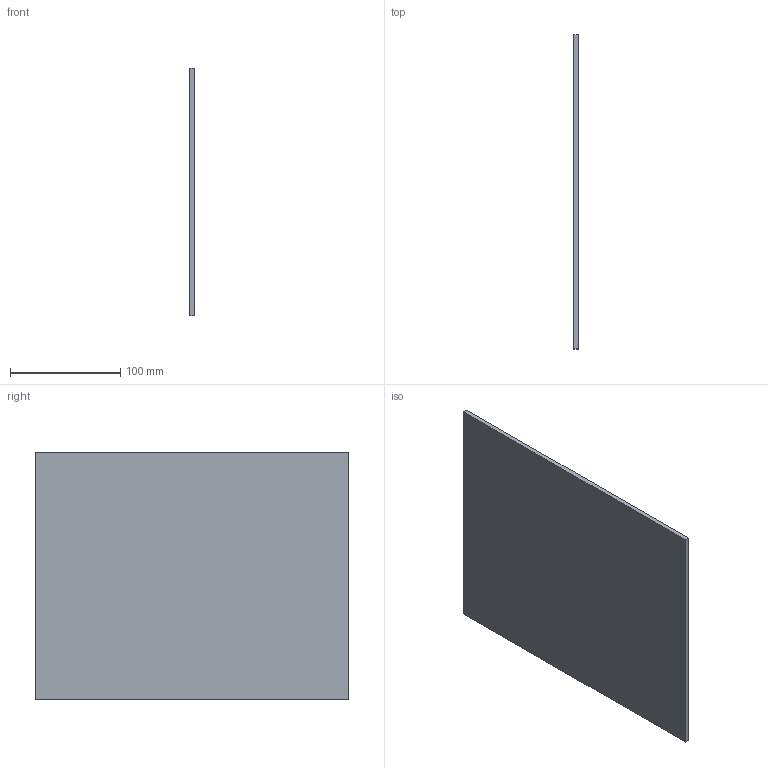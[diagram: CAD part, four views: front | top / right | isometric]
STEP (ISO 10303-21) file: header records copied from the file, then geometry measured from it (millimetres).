
FILE_DESCRIPTION(('FreeCAD Model'),'2;1');
FILE_NAME('/home/bluelambda/Documents/Arcade/meca/screen_glass.stp', '2016-04-01T08:13:48',('Author'),(''), 'Open CASCADE STEP processor 6.9','FreeCAD','Unknown');
FILE_SCHEMA(('AUTOMOTIVE_DESIGN { 1 0 10303 214 1 1 1 1 }'));
Length unit declared in the file: millimetre
Products named in the file (1): screen_glass
Bounding box: 4 x 285 x 225 mm (x, y, z)
Volume: 256500 mm3; surface area: 132330 mm2
Topology: 1 solids, 1 shells, 6 faces, 12 edges, 8 vertices
Faces by surface type: plane 6
Entity records: 333 total; most frequent: CARTESIAN_POINT 51, DIRECTION 50, LINE 36, VECTOR 36, ORIENTED_EDGE 24, PCURVE 24, DEFINITIONAL_REPRESENTATION 24, EDGE_CURVE 12
